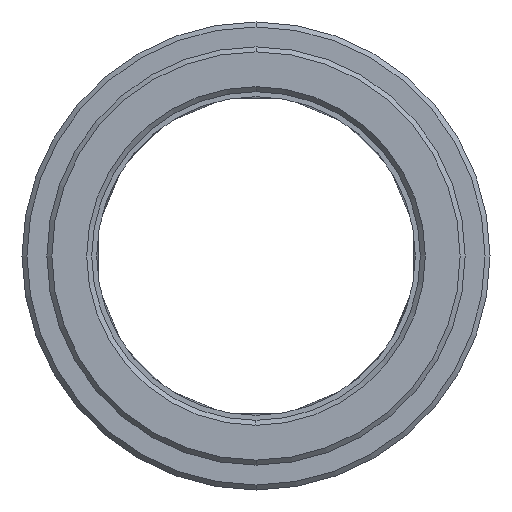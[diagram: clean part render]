
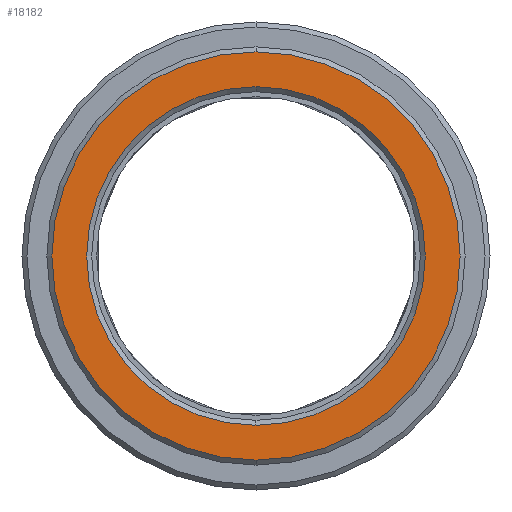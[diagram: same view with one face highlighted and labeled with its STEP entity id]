
A CAD part, left-side view. The second image highlights one B-rep face of the part: STEP entity #18182.
In plain terms, the highlighted planar face has unit normal (-1, 0, 0).
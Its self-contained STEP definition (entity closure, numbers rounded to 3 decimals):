
#7394=CARTESIAN_POINT('',(-8.,0.,
0.));
#7395=DIRECTION('',(1.,0.,0.));
#7396=DIRECTION('',(0.,0.,1.));
#7397=AXIS2_PLACEMENT_3D('',#7394,#7395,#7396);
#7399=CARTESIAN_POINT('',(-8.,0.,0.));
#7400=DIRECTION('',(1.,0.,0.));
#7401=DIRECTION('',(0.,0.,-1.));
#7402=AXIS2_PLACEMENT_3D('',#7399,#7400,#7401);
#7404=CARTESIAN_POINT('',(-8.,0.,0.));
#7405=DIRECTION('',(1.,0.,0.));
#7406=DIRECTION('',(0.,0.,1.));
#7407=AXIS2_PLACEMENT_3D('',#7404,#7405,#7406);
#7409=CARTESIAN_POINT('',(-8.,0.,
0.));
#7410=DIRECTION('',(1.,0.,0.));
#7411=DIRECTION('',(0.,0.,-1.));
#7412=AXIS2_PLACEMENT_3D('',#7409,#7410,#7411);
#15538=CARTESIAN_POINT('',(-8.,0.,17.));
#15539=CARTESIAN_POINT('',(-8.,0.,
-17.));
#15540=VERTEX_POINT('',#15538);
#15541=VERTEX_POINT('',#15539);
#15546=CARTESIAN_POINT('',(-8.,0.,20.5));
#15547=CARTESIAN_POINT('',(-8.,0.,-20.5));
#15548=VERTEX_POINT('',#15546);
#15549=VERTEX_POINT('',#15547);
#18166=CARTESIAN_POINT('',(-8.,0.,0.));
#18167=DIRECTION('',(1.,0.,0.));
#18168=DIRECTION('',(0.,0.,1.));
#18169=AXIS2_PLACEMENT_3D('',#18166,#18167,#18168);
#18170=PLANE('',#18169);
#18172=ORIENTED_EDGE('',*,*,#18171,.T.);
#18174=ORIENTED_EDGE('',*,*,#18173,.T.);
#18175=EDGE_LOOP('',(#18172,#18174));
#18176=FACE_OUTER_BOUND('',#18175,.F.);
#18178=ORIENTED_EDGE('',*,*,#18177,.F.);
#18179=ORIENTED_EDGE('',*,*,#18156,.F.);
#18180=EDGE_LOOP('',(#18178,#18179));
#18181=FACE_BOUND('',#18180,.F.);
#18182=ADVANCED_FACE('',(#18176,#18181),#18170,.F.);
#7398=CIRCLE('',#7397,20.5);
#7403=CIRCLE('',#7402,20.5);
#7408=CIRCLE('',#7407,17.);
#7413=CIRCLE('',#7412,17.);
#18156=EDGE_CURVE('',#15541,#15540,#7413,.T.);
#18171=EDGE_CURVE('',#15548,#15549,#7398,.T.);
#18173=EDGE_CURVE('',#15549,#15548,#7403,.T.);
#18177=EDGE_CURVE('',#15540,#15541,#7408,.T.);
